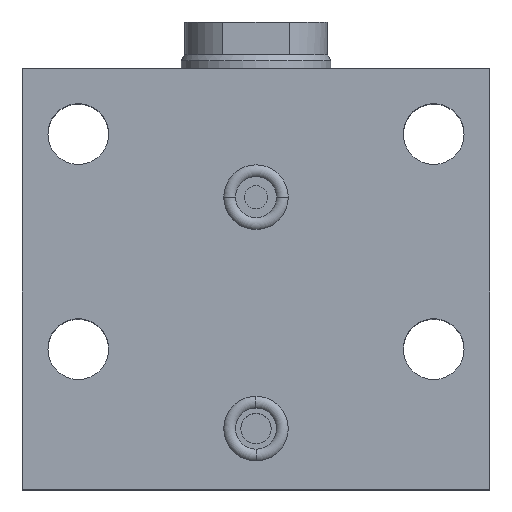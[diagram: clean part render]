
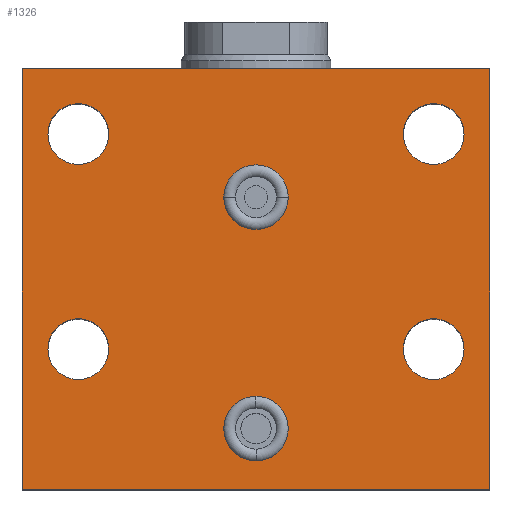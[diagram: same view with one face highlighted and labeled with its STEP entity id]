
A CAD part, top view. The second image highlights one B-rep face of the part: STEP entity #1326.
In plain terms, the highlighted planar face has unit normal (0, 0, 1).
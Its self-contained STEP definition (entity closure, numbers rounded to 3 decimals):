
#2 = DIRECTION ( 'NONE',  ( -1., 0., 0. ) ) ;
#13 = EDGE_CURVE ( 'NONE', #739, #2310, #2258, .T. ) ;
#34 = ORIENTED_EDGE ( 'NONE', *, *, #2353, .F. ) ;
#45 = DIRECTION ( 'NONE',  ( 0., 0., -1. ) ) ;
#70 = VERTEX_POINT ( 'NONE', #2065 ) ;
#91 = CARTESIAN_POINT ( 'NONE',  ( -50., 65., 37.5 ) ) ;
#94 = EDGE_CURVE ( 'NONE', #685, #2444, #1865, .T. ) ;
#144 = DIRECTION ( 'NONE',  ( -1., 0., 0. ) ) ;
#148 = EDGE_CURVE ( 'NONE', #2202, #1556, #1407, .T. ) ;
#158 = CIRCLE ( 'NONE', #191, 6.5 ) ;
#159 = DIRECTION ( 'NONE',  ( -1., 0., 0. ) ) ;
#161 = DIRECTION ( 'NONE',  ( 0., 0., 1. ) ) ;
#170 = AXIS2_PLACEMENT_3D ( 'NONE', #1246, #1638, #1023 ) ;
#175 = CARTESIAN_POINT ( 'NONE',  ( 0., 62.5, 37.5 ) ) ;
#191 = AXIS2_PLACEMENT_3D ( 'NONE', #499, #498, #494 ) ;
#193 = PLANE ( 'NONE',  #457 ) ;
#202 = ORIENTED_EDGE ( 'NONE', *, *, #1287, .F. ) ;
#207 = EDGE_LOOP ( 'NONE', ( #34, #202 ) ) ;
#215 = CARTESIAN_POINT ( 'NONE',  ( -50., 65., 37.5 ) ) ;
#220 = CARTESIAN_POINT ( 'NONE',  ( 44.5, 76., 37.5 ) ) ;
#221 = CARTESIAN_POINT ( 'NONE',  ( 31.5, 76., 37.5 ) ) ;
#222 = ORIENTED_EDGE ( 'NONE', *, *, #268, .T. ) ;
#242 = EDGE_CURVE ( 'NONE', #2488, #1371, #1053, .T. ) ;
#243 = DIRECTION ( 'NONE',  ( 1., 0., 0. ) ) ;
#249 = AXIS2_PLACEMENT_3D ( 'NONE', #292, #2052, #1480 ) ;
#251 = EDGE_LOOP ( 'NONE', ( #282, #985 ) ) ;
#268 = EDGE_CURVE ( 'NONE', #759, #2418, #2337, .T. ) ;
#282 = ORIENTED_EDGE ( 'NONE', *, *, #242, .F. ) ;
#292 = CARTESIAN_POINT ( 'NONE',  ( -38., 76., 37.5 ) ) ;
#296 = DIRECTION ( 'NONE',  ( 0., -1., 0. ) ) ;
#301 = ORIENTED_EDGE ( 'NONE', *, *, #1171, .T. ) ;
#307 = LINE ( 'NONE', #1413, #1917 ) ;
#319 = EDGE_CURVE ( 'NONE', #570, #873, #307, .T. ) ;
#347 = CARTESIAN_POINT ( 'NONE',  ( 50., 0., 37.5 ) ) ;
#366 = CIRCLE ( 'NONE', #832, 6.9 ) ;
#421 = AXIS2_PLACEMENT_3D ( 'NONE', #780, #1747, #2324 ) ;
#424 = ORIENTED_EDGE ( 'NONE', *, *, #319, .F. ) ;
#427 = AXIS2_PLACEMENT_3D ( 'NONE', #2420, #2037, #1652 ) ;
#432 = AXIS2_PLACEMENT_3D ( 'NONE', #1490, #1488, #1487 ) ;
#443 = DIRECTION ( 'NONE',  ( 0., 0., 1. ) ) ;
#457 = AXIS2_PLACEMENT_3D ( 'NONE', #91, #45, #2 ) ;
#477 = FACE_OUTER_BOUND ( 'NONE', #574, .T. ) ;
#494 = DIRECTION ( 'NONE',  ( 1., 0., 0. ) ) ;
#498 = DIRECTION ( 'NONE',  ( 0., 0., 1. ) ) ;
#499 = CARTESIAN_POINT ( 'NONE',  ( -38., 76., 37.5 ) ) ;
#523 = CIRCLE ( 'NONE', #2055, 6.9 ) ;
#531 = FACE_BOUND ( 'NONE', #251, .T. ) ;
#560 = ORIENTED_EDGE ( 'NONE', *, *, #13, .F. ) ;
#570 = VERTEX_POINT ( 'NONE', #887 ) ;
#574 = EDGE_LOOP ( 'NONE', ( #222, #2016, #424, #661 ) ) ;
#586 = FACE_BOUND ( 'NONE', #1183, .T. ) ;
#616 = FACE_BOUND ( 'NONE', #207, .T. ) ;
#637 = CARTESIAN_POINT ( 'NONE',  ( 50., 65., 37.5 ) ) ;
#645 = DIRECTION ( 'NONE',  ( 0., -1., 0. ) ) ;
#659 = DIRECTION ( 'NONE',  ( -1., 0., 0. ) ) ;
#661 = ORIENTED_EDGE ( 'NONE', *, *, #1247, .T. ) ;
#682 = CIRCLE ( 'NONE', #432, 6.5 ) ;
#685 = VERTEX_POINT ( 'NONE', #1686 ) ;
#688 = DIRECTION ( 'NONE',  ( 0., 0., -1. ) ) ;
#694 = CARTESIAN_POINT ( 'NONE',  ( 0., 13., 37.5 ) ) ;
#722 = CARTESIAN_POINT ( 'NONE',  ( 0., 62.5, 37.5 ) ) ;
#739 = VERTEX_POINT ( 'NONE', #220 ) ;
#751 = FACE_BOUND ( 'NONE', #1207, .T. ) ;
#753 = VECTOR ( 'NONE', #645, 1000. ) ;
#759 = VERTEX_POINT ( 'NONE', #2107 ) ;
#772 = VERTEX_POINT ( 'NONE', #2457 ) ;
#780 = CARTESIAN_POINT ( 'NONE',  ( 38., 76., 37.5 ) ) ;
#804 = DIRECTION ( 'NONE',  ( 1., 0., 0. ) ) ;
#829 = CARTESIAN_POINT ( 'NONE',  ( -50., 0., 37.5 ) ) ;
#832 = AXIS2_PLACEMENT_3D ( 'NONE', #722, #1901, #1928 ) ;
#842 = ORIENTED_EDGE ( 'NONE', *, *, #2254, .F. ) ;
#873 = VERTEX_POINT ( 'NONE', #1997 ) ;
#887 = CARTESIAN_POINT ( 'NONE',  ( -50., 90., 37.5 ) ) ;
#898 = CIRCLE ( 'NONE', #427, 6.5 ) ;
#937 = FACE_BOUND ( 'NONE', #2514, .T. ) ;
#940 = CIRCLE ( 'NONE', #1806, 6.5 ) ;
#950 = CIRCLE ( 'NONE', #1395, 6.9 ) ;
#970 = FACE_BOUND ( 'NONE', #986, .T. ) ;
#985 = ORIENTED_EDGE ( 'NONE', *, *, #1503, .F. ) ;
#986 = EDGE_LOOP ( 'NONE', ( #301, #992 ) ) ;
#992 = ORIENTED_EDGE ( 'NONE', *, *, #2509, .T. ) ;
#1013 = CARTESIAN_POINT ( 'NONE',  ( -38., 30., 37.5 ) ) ;
#1023 = DIRECTION ( 'NONE',  ( 1., 0., 0. ) ) ;
#1053 = CIRCLE ( 'NONE', #1619, 6.5 ) ;
#1078 = VERTEX_POINT ( 'NONE', #1271 ) ;
#1122 = AXIS2_PLACEMENT_3D ( 'NONE', #175, #161, #159 ) ;
#1153 = ORIENTED_EDGE ( 'NONE', *, *, #1602, .F. ) ;
#1171 = EDGE_CURVE ( 'NONE', #1078, #772, #523, .T. ) ;
#1183 = EDGE_LOOP ( 'NONE', ( #1221, #842 ) ) ;
#1207 = EDGE_LOOP ( 'NONE', ( #560, #1153 ) ) ;
#1221 = ORIENTED_EDGE ( 'NONE', *, *, #148, .F. ) ;
#1246 = CARTESIAN_POINT ( 'NONE',  ( 38., 30., 37.5 ) ) ;
#1247 = EDGE_CURVE ( 'NONE', #570, #759, #2446, .T. ) ;
#1271 = CARTESIAN_POINT ( 'NONE',  ( 0., 19.9, 37.5 ) ) ;
#1287 = EDGE_CURVE ( 'NONE', #1399, #70, #2003, .T. ) ;
#1292 = LINE ( 'NONE', #637, #753 ) ;
#1316 = CARTESIAN_POINT ( 'NONE',  ( 0., 13., 37.5 ) ) ;
#1326 = ADVANCED_FACE ( 'NONE', ( #970, #616, #751, #937, #586, #531, #477 ), #193, .F. ) ;
#1371 = VERTEX_POINT ( 'NONE', #2363 ) ;
#1395 = AXIS2_PLACEMENT_3D ( 'NONE', #1316, #1516, #144 ) ;
#1399 = VERTEX_POINT ( 'NONE', #2241 ) ;
#1404 = ORIENTED_EDGE ( 'NONE', *, *, #1863, .F. ) ;
#1407 = CIRCLE ( 'NONE', #170, 6.5 ) ;
#1413 = CARTESIAN_POINT ( 'NONE',  ( -50., 90., 37.5 ) ) ;
#1480 = DIRECTION ( 'NONE',  ( 1., 0., 0. ) ) ;
#1487 = DIRECTION ( 'NONE',  ( 1., 0., 0. ) ) ;
#1488 = DIRECTION ( 'NONE',  ( 0., 0., 1. ) ) ;
#1490 = CARTESIAN_POINT ( 'NONE',  ( 38., 76., 37.5 ) ) ;
#1503 = EDGE_CURVE ( 'NONE', #1371, #2488, #940, .T. ) ;
#1516 = DIRECTION ( 'NONE',  ( 0., 0., -1. ) ) ;
#1544 = CARTESIAN_POINT ( 'NONE',  ( -44.5, 76., 37.5 ) ) ;
#1556 = VERTEX_POINT ( 'NONE', #1732 ) ;
#1602 = EDGE_CURVE ( 'NONE', #2310, #739, #682, .T. ) ;
#1619 = AXIS2_PLACEMENT_3D ( 'NONE', #1013, #443, #2389 ) ;
#1638 = DIRECTION ( 'NONE',  ( 0., 0., 1. ) ) ;
#1652 = DIRECTION ( 'NONE',  ( 1., 0., 0. ) ) ;
#1686 = CARTESIAN_POINT ( 'NONE',  ( -31.5, 76., 37.5 ) ) ;
#1732 = CARTESIAN_POINT ( 'NONE',  ( 31.5, 30., 37.5 ) ) ;
#1747 = DIRECTION ( 'NONE',  ( 0., 0., 1. ) ) ;
#1773 = ORIENTED_EDGE ( 'NONE', *, *, #94, .F. ) ;
#1799 = EDGE_CURVE ( 'NONE', #873, #2418, #1292, .T. ) ;
#1806 = AXIS2_PLACEMENT_3D ( 'NONE', #1899, #1892, #1889 ) ;
#1832 = CARTESIAN_POINT ( 'NONE',  ( 44.5, 30., 37.5 ) ) ;
#1863 = EDGE_CURVE ( 'NONE', #2444, #685, #158, .T. ) ;
#1865 = CIRCLE ( 'NONE', #249, 6.5 ) ;
#1889 = DIRECTION ( 'NONE',  ( 1., 0., 0. ) ) ;
#1892 = DIRECTION ( 'NONE',  ( 0., 0., 1. ) ) ;
#1899 = CARTESIAN_POINT ( 'NONE',  ( -38., 30., 37.5 ) ) ;
#1901 = DIRECTION ( 'NONE',  ( 0., 0., 1. ) ) ;
#1917 = VECTOR ( 'NONE', #804, 1000. ) ;
#1928 = DIRECTION ( 'NONE',  ( -1., 0., 0. ) ) ;
#1997 = CARTESIAN_POINT ( 'NONE',  ( 50., 90., 37.5 ) ) ;
#2003 = CIRCLE ( 'NONE', #1122, 6.9 ) ;
#2016 = ORIENTED_EDGE ( 'NONE', *, *, #1799, .F. ) ;
#2031 = VECTOR ( 'NONE', #296, 1000. ) ;
#2037 = DIRECTION ( 'NONE',  ( 0., 0., 1. ) ) ;
#2052 = DIRECTION ( 'NONE',  ( 0., 0., 1. ) ) ;
#2055 = AXIS2_PLACEMENT_3D ( 'NONE', #694, #688, #659 ) ;
#2065 = CARTESIAN_POINT ( 'NONE',  ( 6.9, 62.5, 37.5 ) ) ;
#2072 = VECTOR ( 'NONE', #243, 1000. ) ;
#2107 = CARTESIAN_POINT ( 'NONE',  ( -50., 0., 37.5 ) ) ;
#2139 = CARTESIAN_POINT ( 'NONE',  ( -31.5, 30., 37.5 ) ) ;
#2202 = VERTEX_POINT ( 'NONE', #1832 ) ;
#2241 = CARTESIAN_POINT ( 'NONE',  ( -6.9, 62.5, 37.5 ) ) ;
#2254 = EDGE_CURVE ( 'NONE', #1556, #2202, #898, .T. ) ;
#2258 = CIRCLE ( 'NONE', #421, 6.5 ) ;
#2310 = VERTEX_POINT ( 'NONE', #221 ) ;
#2324 = DIRECTION ( 'NONE',  ( 1., 0., 0. ) ) ;
#2337 = LINE ( 'NONE', #829, #2072 ) ;
#2353 = EDGE_CURVE ( 'NONE', #70, #1399, #366, .T. ) ;
#2363 = CARTESIAN_POINT ( 'NONE',  ( -44.5, 30., 37.5 ) ) ;
#2389 = DIRECTION ( 'NONE',  ( 1., 0., 0. ) ) ;
#2418 = VERTEX_POINT ( 'NONE', #347 ) ;
#2420 = CARTESIAN_POINT ( 'NONE',  ( 38., 30., 37.5 ) ) ;
#2444 = VERTEX_POINT ( 'NONE', #1544 ) ;
#2446 = LINE ( 'NONE', #215, #2031 ) ;
#2457 = CARTESIAN_POINT ( 'NONE',  ( 0., 6.1, 37.5 ) ) ;
#2488 = VERTEX_POINT ( 'NONE', #2139 ) ;
#2509 = EDGE_CURVE ( 'NONE', #772, #1078, #950, .T. ) ;
#2514 = EDGE_LOOP ( 'NONE', ( #1773, #1404 ) ) ;
